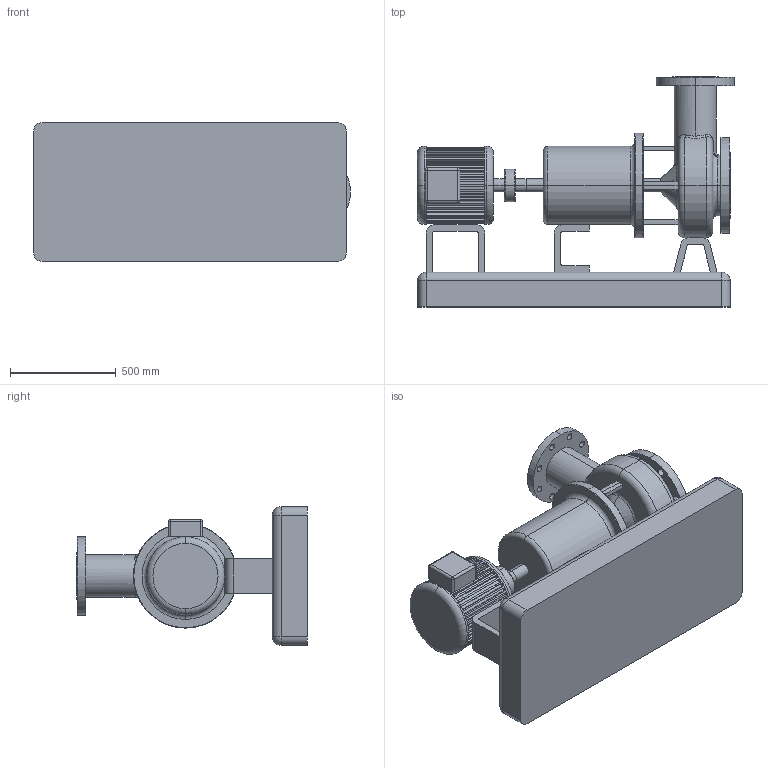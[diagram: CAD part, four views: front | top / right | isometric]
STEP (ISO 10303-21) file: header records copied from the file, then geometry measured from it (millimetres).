
FILE_DESCRIPTION (( 'STEP AP214' ), '1' );
FILE_NAME ('Open100 V2 Auxiliary Cooling Water Pump.STEP', '2020-09-01T12:29:26', ( '' ), ( '' ), 'SwSTEP 2.0', 'SolidWorks 2020', '' );
FILE_SCHEMA (( 'AUTOMOTIVE_DESIGN' ));
Length unit declared in the file: inch
Products named in the file (1): Open100 V2 Auxiliary Cooling Water Pump
Bounding box: 1501.9 x 1090.42 x 658.37 mm (x, y, z)
Volume: 279625382 mm3; surface area: 7216790 mm2
Topology: 5 solids, 5 shells, 535 faces, 1439 edges, 932 vertices
Faces by surface type: plane 281, cylinder 159, bspline 53, torus 26, sphere 8, cone 8
Entity records: 21619 total; most frequent: CARTESIAN_POINT 8143, ORIENTED_EDGE 2862, DIRECTION 2655, EDGE_CURVE 1431, VERTEX_POINT 932, LINE 931, VECTOR 931, AXIS2_PLACEMENT_3D 862
